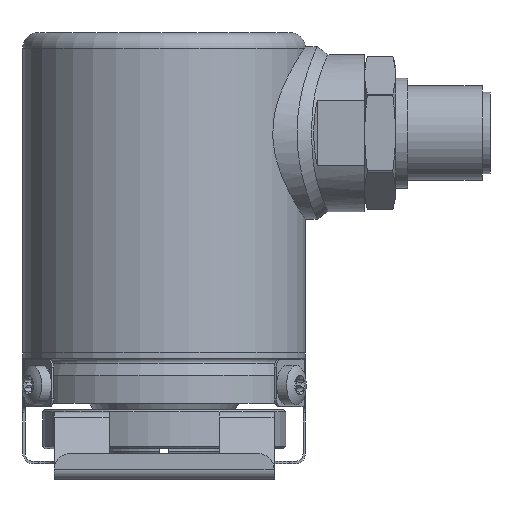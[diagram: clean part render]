
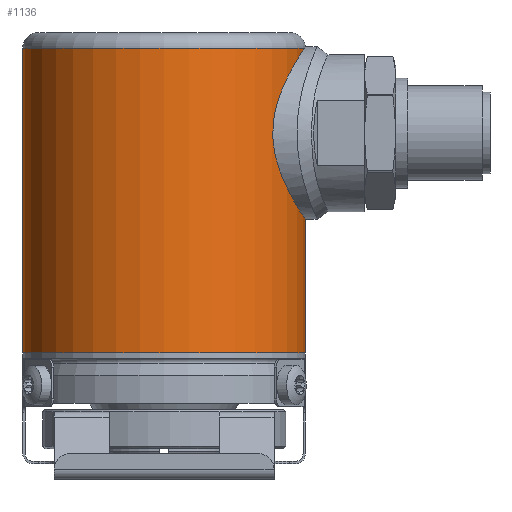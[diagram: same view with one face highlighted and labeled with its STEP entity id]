
A CAD part, left-side view. The second image highlights one B-rep face of the part: STEP entity #1136.
In plain terms, the highlighted cylindrical face has radius 18 mm (diameter 36 mm), a full revolution.
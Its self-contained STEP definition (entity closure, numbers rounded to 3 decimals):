
#1136 = ADVANCED_FACE( '', ( #2249, #2250 ), #2251, .T. );
#2249 = FACE_OUTER_BOUND( '', #3457, .T. );
#2250 = FACE_OUTER_BOUND( '', #3458, .T. );
#2251 = CYLINDRICAL_SURFACE( '', #3459, 18. );
#3457 = EDGE_LOOP( '', ( #6008 ) );
#3458 = EDGE_LOOP( '', ( #6009 ) );
#3459 = AXIS2_PLACEMENT_3D( '', #6010, #6011, #6012 );
#6008 = ORIENTED_EDGE( '', *, *, #7425, .F. );
#6009 = ORIENTED_EDGE( '', *, *, #7654, .T. );
#6010 = CARTESIAN_POINT( '', ( 0., 0., 26.1 ) );
#6011 = DIRECTION( '', ( 0., 0., -1. ) );
#6012 = DIRECTION( '', ( 1., 0., 0. ) );
#7425 = EDGE_CURVE( '', #9119, #9119, #9120, .T. );
#7654 = EDGE_CURVE( '', #9431, #9431, #9432, .T. );
#9119 = VERTEX_POINT( '', #11767 );
#9120 = CIRCLE( '', #11768, 18. );
#9431 = VERTEX_POINT( '', #12265 );
#9432 = CIRCLE( '', #12266, 18. );
#11767 = CARTESIAN_POINT( '', ( 18., 0., 38.8 ) );
#11768 = AXIS2_PLACEMENT_3D( '', #13591, #13592, #13593 );
#12265 = CARTESIAN_POINT( '', ( 18., 0., 0. ) );
#12266 = AXIS2_PLACEMENT_3D( '', #13874, #13875, #13876 );
#13591 = CARTESIAN_POINT( '', ( 0., 0., 38.8 ) );
#13592 = DIRECTION( '', ( 0., 0., 1. ) );
#13593 = DIRECTION( '', ( 1., 0., 0. ) );
#13874 = CARTESIAN_POINT( '', ( 0., 0., 0. ) );
#13875 = DIRECTION( '', ( 0., 0., 1. ) );
#13876 = DIRECTION( '', ( 1., 0., 0. ) );
